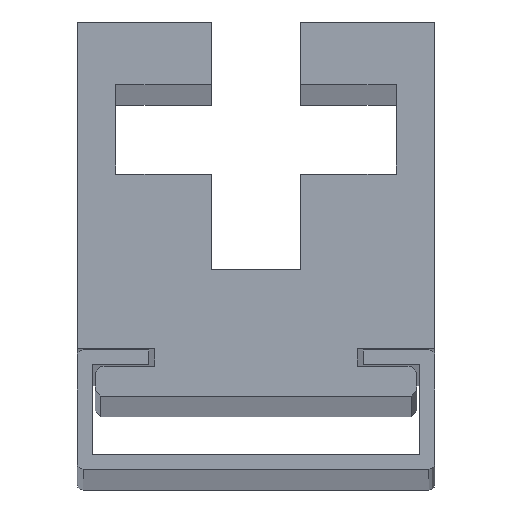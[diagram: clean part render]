
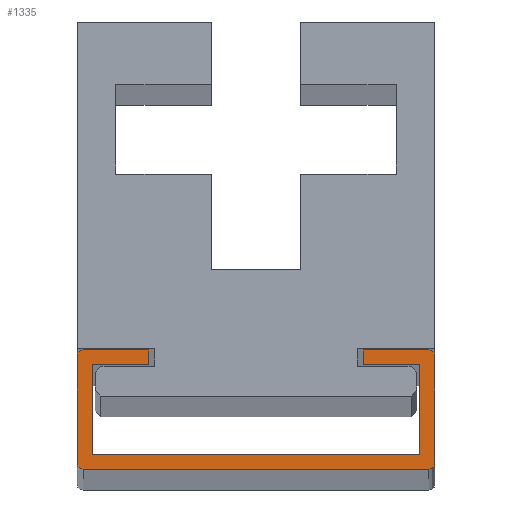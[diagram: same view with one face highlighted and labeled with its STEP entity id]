
A CAD part, top view. The second image highlights one B-rep face of the part: STEP entity #1335.
In plain terms, the highlighted planar face has unit normal (0, 0, 1).
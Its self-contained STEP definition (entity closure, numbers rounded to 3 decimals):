
#5 = VECTOR ( 'NONE', #633, 1000. ) ;
#10 = LINE ( 'NONE', #1635, #1269 ) ;
#12 = EDGE_CURVE ( 'NONE', #427, #1202, #1275, .T. ) ;
#21 = LINE ( 'NONE', #1142, #498 ) ;
#28 = ORIENTED_EDGE ( 'NONE', *, *, #1203, .T. ) ;
#37 = VECTOR ( 'NONE', #534, 1000. ) ;
#56 = CARTESIAN_POINT ( 'NONE',  ( 59., 1., 2000. ) ) ;
#57 = VERTEX_POINT ( 'NONE', #1264 ) ;
#79 = VERTEX_POINT ( 'NONE', #1178 ) ;
#97 = VERTEX_POINT ( 'NONE', #178 ) ;
#105 = CARTESIAN_POINT ( 'NONE',  ( 1., 0., 2000. ) ) ;
#108 = ORIENTED_EDGE ( 'NONE', *, *, #12, .T. ) ;
#109 = LINE ( 'NONE', #105, #350 ) ;
#115 = DIRECTION ( 'NONE',  ( 1., 0., 0. ) ) ;
#123 = DIRECTION ( 'NONE',  ( -1., 0., 0. ) ) ;
#162 = CARTESIAN_POINT ( 'NONE',  ( 2.5, 2.5, 2000. ) ) ;
#178 = CARTESIAN_POINT ( 'NONE',  ( 60., 1., 2000. ) ) ;
#183 = VERTEX_POINT ( 'NONE', #955 ) ;
#201 = VERTEX_POINT ( 'NONE', #975 ) ;
#211 = EDGE_CURVE ( 'NONE', #1205, #660, #579, .T. ) ;
#223 = DIRECTION ( 'NONE',  ( 0., 1., 0. ) ) ;
#230 = EDGE_CURVE ( 'NONE', #625, #1205, #1376, .T. ) ;
#241 = DIRECTION ( 'NONE',  ( 0., 0., 1. ) ) ;
#257 = EDGE_CURVE ( 'NONE', #57, #183, #1118, .T. ) ;
#276 = CARTESIAN_POINT ( 'NONE',  ( 59., 19., 2000. ) ) ;
#289 = CARTESIAN_POINT ( 'NONE',  ( 57.5, 17.5, 2000. ) ) ;
#290 = DIRECTION ( 'NONE',  ( 1., 0., 0. ) ) ;
#299 = VECTOR ( 'NONE', #223, 1000. ) ;
#309 = EDGE_CURVE ( 'NONE', #183, #359, #1501, .T. ) ;
#323 = VECTOR ( 'NONE', #890, 1000. ) ;
#350 = VECTOR ( 'NONE', #599, 1000. ) ;
#357 = EDGE_CURVE ( 'NONE', #97, #79, #750, .T. ) ;
#359 = VERTEX_POINT ( 'NONE', #382 ) ;
#371 = EDGE_LOOP ( 'NONE', ( #1419, #842, #1273, #707, #428, #1089, #391, #457, #28, #817, #108, #827, #656, #810, #478, #638 ) ) ;
#382 = CARTESIAN_POINT ( 'NONE',  ( 12., 20., 2000. ) ) ;
#391 = ORIENTED_EDGE ( 'NONE', *, *, #461, .T. ) ;
#393 = EDGE_CURVE ( 'NONE', #1001, #57, #881, .T. ) ;
#403 = CARTESIAN_POINT ( 'NONE',  ( 0., 1., 2000. ) ) ;
#406 = CARTESIAN_POINT ( 'NONE',  ( 59., 20., 2000. ) ) ;
#424 = VERTEX_POINT ( 'NONE', #1179 ) ;
#427 = VERTEX_POINT ( 'NONE', #929 ) ;
#428 = ORIENTED_EDGE ( 'NONE', *, *, #976, .T. ) ;
#457 = ORIENTED_EDGE ( 'NONE', *, *, #357, .T. ) ;
#461 = EDGE_CURVE ( 'NONE', #1076, #97, #1324, .T. ) ;
#478 = ORIENTED_EDGE ( 'NONE', *, *, #393, .T. ) ;
#498 = VECTOR ( 'NONE', #1263, 1000. ) ;
#501 = VECTOR ( 'NONE', #115, 1000. ) ;
#502 = VERTEX_POINT ( 'NONE', #1563 ) ;
#534 = DIRECTION ( 'NONE',  ( 0., 1., 0. ) ) ;
#536 = CARTESIAN_POINT ( 'NONE',  ( 0., 19., 2000. ) ) ;
#579 = LINE ( 'NONE', #1088, #1491 ) ;
#584 = DIRECTION ( 'NONE',  ( 0., -1., 0. ) ) ;
#588 = EDGE_CURVE ( 'NONE', #359, #625, #10, .T. ) ;
#591 = DIRECTION ( 'NONE',  ( 0., 0., 1. ) ) ;
#599 = DIRECTION ( 'NONE',  ( 1., 0., 0. ) ) ;
#624 = AXIS2_PLACEMENT_3D ( 'NONE', #276, #1430, #1566 ) ;
#625 = VERTEX_POINT ( 'NONE', #777 ) ;
#633 = DIRECTION ( 'NONE',  ( -1., 0., 0. ) ) ;
#636 = EDGE_CURVE ( 'NONE', #201, #1001, #1539, .T. ) ;
#638 = ORIENTED_EDGE ( 'NONE', *, *, #257, .T. ) ;
#656 = ORIENTED_EDGE ( 'NONE', *, *, #820, .T. ) ;
#660 = VERTEX_POINT ( 'NONE', #403 ) ;
#702 = FACE_OUTER_BOUND ( 'NONE', #371, .T. ) ;
#707 = ORIENTED_EDGE ( 'NONE', *, *, #211, .T. ) ;
#712 = VECTOR ( 'NONE', #584, 1000. ) ;
#720 = LINE ( 'NONE', #289, #712 ) ;
#736 = CARTESIAN_POINT ( 'NONE',  ( 1., 19., 2000. ) ) ;
#744 = AXIS2_PLACEMENT_3D ( 'NONE', #834, #591, #1097 ) ;
#750 = LINE ( 'NONE', #1526, #323 ) ;
#752 = CARTESIAN_POINT ( 'NONE',  ( 57.5, 2.5, 2000. ) ) ;
#777 = CARTESIAN_POINT ( 'NONE',  ( 1., 20., 2000. ) ) ;
#780 = DIRECTION ( 'NONE',  ( 0., -1., 0. ) ) ;
#810 = ORIENTED_EDGE ( 'NONE', *, *, #636, .T. ) ;
#817 = ORIENTED_EDGE ( 'NONE', *, *, #1180, .T. ) ;
#820 = EDGE_CURVE ( 'NONE', #1556, #201, #720, .T. ) ;
#823 = CIRCLE ( 'NONE', #744, 1. ) ;
#827 = ORIENTED_EDGE ( 'NONE', *, *, #1171, .T. ) ;
#834 = CARTESIAN_POINT ( 'NONE',  ( 1., 1., 2000. ) ) ;
#842 = ORIENTED_EDGE ( 'NONE', *, *, #588, .T. ) ;
#867 = CARTESIAN_POINT ( 'NONE',  ( 12., 17.5, 2000. ) ) ;
#881 = LINE ( 'NONE', #162, #37 ) ;
#886 = CARTESIAN_POINT ( 'NONE',  ( 2.5, 2.5, 2000. ) ) ;
#890 = DIRECTION ( 'NONE',  ( 0., 1., 0. ) ) ;
#898 = LINE ( 'NONE', #406, #1358 ) ;
#912 = CARTESIAN_POINT ( 'NONE',  ( 48., 20., 2000. ) ) ;
#920 = CIRCLE ( 'NONE', #624, 1. ) ;
#929 = CARTESIAN_POINT ( 'NONE',  ( 48., 20., 2000. ) ) ;
#955 = CARTESIAN_POINT ( 'NONE',  ( 12., 17.5, 2000. ) ) ;
#970 = CARTESIAN_POINT ( 'NONE',  ( 2.5, 17.5, 2000. ) ) ;
#975 = CARTESIAN_POINT ( 'NONE',  ( 57.5, 2.5, 2000. ) ) ;
#976 = EDGE_CURVE ( 'NONE', #660, #424, #823, .T. ) ;
#1001 = VERTEX_POINT ( 'NONE', #886 ) ;
#1062 = PLANE ( 'NONE',  #1257 ) ;
#1069 = DIRECTION ( 'NONE',  ( 1., 0., 0. ) ) ;
#1076 = VERTEX_POINT ( 'NONE', #1522 ) ;
#1083 = EDGE_CURVE ( 'NONE', #424, #1076, #109, .T. ) ;
#1088 = CARTESIAN_POINT ( 'NONE',  ( 0., 19., 2000. ) ) ;
#1089 = ORIENTED_EDGE ( 'NONE', *, *, #1083, .T. ) ;
#1097 = DIRECTION ( 'NONE',  ( 1., 0., 0. ) ) ;
#1110 = AXIS2_PLACEMENT_3D ( 'NONE', #736, #241, #1633 ) ;
#1112 = VECTOR ( 'NONE', #780, 1000. ) ;
#1118 = LINE ( 'NONE', #970, #501 ) ;
#1137 = AXIS2_PLACEMENT_3D ( 'NONE', #56, #1163, #290 ) ;
#1142 = CARTESIAN_POINT ( 'NONE',  ( 48., 17.5, 2000. ) ) ;
#1163 = DIRECTION ( 'NONE',  ( 0., 0., 1. ) ) ;
#1171 = EDGE_CURVE ( 'NONE', #1202, #1556, #21, .T. ) ;
#1174 = DIRECTION ( 'NONE',  ( -1., 0., 0. ) ) ;
#1178 = CARTESIAN_POINT ( 'NONE',  ( 60., 19., 2000. ) ) ;
#1179 = CARTESIAN_POINT ( 'NONE',  ( 1., 0., 2000. ) ) ;
#1180 = EDGE_CURVE ( 'NONE', #502, #427, #898, .T. ) ;
#1193 = CARTESIAN_POINT ( 'NONE',  ( 57.5, 17.5, 2000. ) ) ;
#1202 = VERTEX_POINT ( 'NONE', #1549 ) ;
#1203 = EDGE_CURVE ( 'NONE', #79, #502, #920, .T. ) ;
#1205 = VERTEX_POINT ( 'NONE', #536 ) ;
#1257 = AXIS2_PLACEMENT_3D ( 'NONE', #1448, #1592, #1069 ) ;
#1263 = DIRECTION ( 'NONE',  ( 1., 0., 0. ) ) ;
#1264 = CARTESIAN_POINT ( 'NONE',  ( 2.5, 17.5, 2000. ) ) ;
#1269 = VECTOR ( 'NONE', #123, 1000. ) ;
#1273 = ORIENTED_EDGE ( 'NONE', *, *, #230, .T. ) ;
#1275 = LINE ( 'NONE', #912, #1112 ) ;
#1324 = CIRCLE ( 'NONE', #1137, 1. ) ;
#1335 = ADVANCED_FACE ( 'NONE', ( #702 ), #1062, .T. ) ;
#1358 = VECTOR ( 'NONE', #1174, 1000. ) ;
#1376 = CIRCLE ( 'NONE', #1110, 1. ) ;
#1419 = ORIENTED_EDGE ( 'NONE', *, *, #309, .T. ) ;
#1430 = DIRECTION ( 'NONE',  ( 0., 0., 1. ) ) ;
#1448 = CARTESIAN_POINT ( 'NONE',  ( 1., 19., 2000. ) ) ;
#1475 = DIRECTION ( 'NONE',  ( 0., -1., 0. ) ) ;
#1491 = VECTOR ( 'NONE', #1475, 1000. ) ;
#1501 = LINE ( 'NONE', #867, #299 ) ;
#1522 = CARTESIAN_POINT ( 'NONE',  ( 59., 0., 2000. ) ) ;
#1526 = CARTESIAN_POINT ( 'NONE',  ( 60., 1., 2000. ) ) ;
#1539 = LINE ( 'NONE', #752, #5 ) ;
#1549 = CARTESIAN_POINT ( 'NONE',  ( 48., 17.5, 2000. ) ) ;
#1556 = VERTEX_POINT ( 'NONE', #1193 ) ;
#1563 = CARTESIAN_POINT ( 'NONE',  ( 59., 20., 2000. ) ) ;
#1566 = DIRECTION ( 'NONE',  ( 1., 0., 0. ) ) ;
#1592 = DIRECTION ( 'NONE',  ( 0., 0., 1. ) ) ;
#1633 = DIRECTION ( 'NONE',  ( 1., 0., 0. ) ) ;
#1635 = CARTESIAN_POINT ( 'NONE',  ( 12., 20., 2000. ) ) ;
